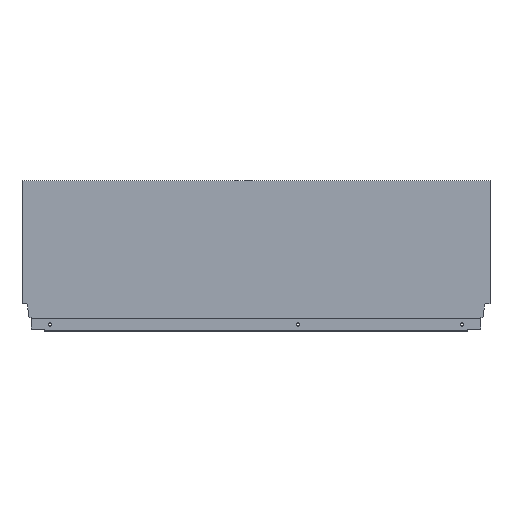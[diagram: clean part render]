
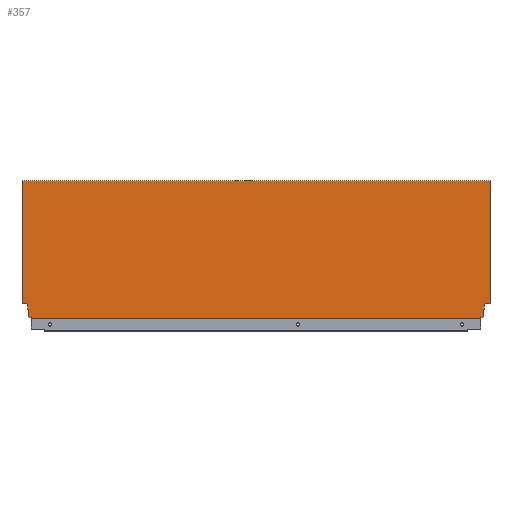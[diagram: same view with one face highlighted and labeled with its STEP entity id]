
A CAD part, top view. The second image highlights one B-rep face of the part: STEP entity #357.
In plain terms, the highlighted planar face has unit normal (0, 0, 1).
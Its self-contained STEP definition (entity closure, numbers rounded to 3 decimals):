
#42 = EDGE_CURVE ( 'NONE', #775, #624, #1206, .T. ) ;
#75 = EDGE_CURVE ( 'NONE', #744, #768, #1145, .T. ) ;
#94 = EDGE_CURVE ( 'NONE', #752, #712, #1150, .T. ) ;
#120 = EDGE_CURVE ( 'NONE', #740, #741, #230, .T. ) ;
#122 = EDGE_CURVE ( 'NONE', #775, #765, #1114, .T. ) ;
#139 = EDGE_CURVE ( 'NONE', #765, #724, #1110, .T. ) ;
#141 = EDGE_CURVE ( 'NONE', #774, #783, #1128, .T. ) ;
#143 = EDGE_CURVE ( 'NONE', #744, #623, #1124, .T. ) ;
#146 = EDGE_CURVE ( 'NONE', #724, #752, #1108, .T. ) ;
#148 = EDGE_CURVE ( 'NONE', #741, #774, #1119, .T. ) ;
#151 = EDGE_CURVE ( 'NONE', #783, #627, #1102, .T. ) ;
#162 = EDGE_CURVE ( 'NONE', #627, #624, #362, .T. ) ;
#177 = AXIS2_PLACEMENT_3D ( 'NONE', #528, #923, #929 ) ;
#192 = EDGE_CURVE ( 'NONE', #712, #768, #371, .T. ) ;
#197 = EDGE_CURVE ( 'NONE', #623, #740, #373, .T. ) ;
#230 = LINE ( 'NONE', #646, #1111 ) ;
#237 = VECTOR ( 'NONE', #809, 1000. ) ;
#357 = ADVANCED_FACE ( 'NONE', ( #424 ), #921, .T. ) ;
#362 = LINE ( 'NONE', #1087, #363 ) ;
#363 = VECTOR ( 'NONE', #1068, 1000. ) ;
#371 = LINE ( 'NONE', #1002, #372 ) ;
#372 = VECTOR ( 'NONE', #600, 1000. ) ;
#373 = LINE ( 'NONE', #1004, #374 ) ;
#374 = VECTOR ( 'NONE', #599, 1000. ) ;
#424 = FACE_OUTER_BOUND ( 'NONE', #1331, .T. ) ;
#496 = CARTESIAN_POINT ( 'NONE',  ( -8.9, 10.765, 7.5 ) ) ;
#512 = CARTESIAN_POINT ( 'NONE',  ( -658.1, 2.64, 7.5 ) ) ;
#528 = CARTESIAN_POINT ( 'NONE',  ( -667., 0., 7.5 ) ) ;
#592 = CARTESIAN_POINT ( 'NONE',  ( -667., 0., 7.5 ) ) ;
#599 = DIRECTION ( 'NONE',  ( 0., -1., 0. ) ) ;
#600 = DIRECTION ( 'NONE',  ( -1., 0., 0. ) ) ;
#603 = DIRECTION ( 'NONE',  ( 1., 0., 0. ) ) ;
#623 = VERTEX_POINT ( 'NONE', #955 ) ;
#624 = VERTEX_POINT ( 'NONE', #886 ) ;
#627 = VERTEX_POINT ( 'NONE', #1022 ) ;
#646 = CARTESIAN_POINT ( 'NONE',  ( 0., 21.2, 7.5 ) ) ;
#712 = VERTEX_POINT ( 'NONE', #1039 ) ;
#724 = VERTEX_POINT ( 'NONE', #512 ) ;
#737 = CARTESIAN_POINT ( 'NONE',  ( -658.1, 2.64, 7.5 ) ) ;
#740 = VERTEX_POINT ( 'NONE', #997 ) ;
#741 = VERTEX_POINT ( 'NONE', #992 ) ;
#744 = VERTEX_POINT ( 'NONE', #901 ) ;
#751 = DIRECTION ( 'NONE',  ( -1., 0., 0. ) ) ;
#752 = VERTEX_POINT ( 'NONE', #905 ) ;
#765 = VERTEX_POINT ( 'NONE', #896 ) ;
#768 = VERTEX_POINT ( 'NONE', #898 ) ;
#774 = VERTEX_POINT ( 'NONE', #885 ) ;
#775 = VERTEX_POINT ( 'NONE', #889 ) ;
#783 = VERTEX_POINT ( 'NONE', #856 ) ;
#809 = DIRECTION ( 'NONE',  ( -0.174, 0.985, 0. ) ) ;
#810 = CARTESIAN_POINT ( 'NONE',  ( -653.996, 1.146, 7.5 ) ) ;
#812 = DIRECTION ( 'NONE',  ( 0., 1., 0. ) ) ;
#816 = CARTESIAN_POINT ( 'NONE',  ( -659.94, 21.2, 7.5 ) ) ;
#843 = CARTESIAN_POINT ( 'NONE',  ( -667., 0., 7.5 ) ) ;
#846 = DIRECTION ( 'NONE',  ( 0., -1., 0. ) ) ;
#856 = CARTESIAN_POINT ( 'NONE',  ( -8.9, 2.64, 7.5 ) ) ;
#885 = CARTESIAN_POINT ( 'NONE',  ( -8.9, 10.765, 7.5 ) ) ;
#886 = CARTESIAN_POINT ( 'NONE',  ( -13.004, 0., 7.5 ) ) ;
#889 = CARTESIAN_POINT ( 'NONE',  ( -653.996, 0., 7.5 ) ) ;
#896 = CARTESIAN_POINT ( 'NONE',  ( -653.996, 1.146, 7.5 ) ) ;
#898 = CARTESIAN_POINT ( 'NONE',  ( -667., 21.2, 7.5 ) ) ;
#901 = CARTESIAN_POINT ( 'NONE',  ( -667., 196.7, 7.5 ) ) ;
#903 = DIRECTION ( 'NONE',  ( -0.94, 0.342, 0. ) ) ;
#905 = CARTESIAN_POINT ( 'NONE',  ( -658.1, 10.765, 7.5 ) ) ;
#921 = PLANE ( 'NONE',  #177 ) ;
#923 = DIRECTION ( 'NONE',  ( 0., 0., 1. ) ) ;
#929 = DIRECTION ( 'NONE',  ( 1., 0., 0. ) ) ;
#955 = CARTESIAN_POINT ( 'NONE',  ( 0., 196.7, 7.5 ) ) ;
#964 = CARTESIAN_POINT ( 'NONE',  ( -667., 196.7, 7.5 ) ) ;
#965 = DIRECTION ( 'NONE',  ( 1., 0., 0. ) ) ;
#968 = CARTESIAN_POINT ( 'NONE',  ( -658.1, 10.765, 7.5 ) ) ;
#969 = DIRECTION ( 'NONE',  ( 0., 1., 0. ) ) ;
#972 = DIRECTION ( 'NONE',  ( -0.174, -0.985, 0. ) ) ;
#990 = DIRECTION ( 'NONE',  ( -0.94, -0.342, 0. ) ) ;
#992 = CARTESIAN_POINT ( 'NONE',  ( -7.06, 21.2, 7.5 ) ) ;
#997 = CARTESIAN_POINT ( 'NONE',  ( 0., 21.2, 7.5 ) ) ;
#1002 = CARTESIAN_POINT ( 'NONE',  ( -672., 21.2, 7.5 ) ) ;
#1004 = CARTESIAN_POINT ( 'NONE',  ( 0., 0., 7.5 ) ) ;
#1022 = CARTESIAN_POINT ( 'NONE',  ( -13.004, 1.146, 7.5 ) ) ;
#1039 = CARTESIAN_POINT ( 'NONE',  ( -659.94, 21.2, 7.5 ) ) ;
#1064 = DIRECTION ( 'NONE',  ( 0., -1., 0. ) ) ;
#1068 = DIRECTION ( 'NONE',  ( 0., -1., 0. ) ) ;
#1069 = CARTESIAN_POINT ( 'NONE',  ( -8.9, 2.64, 7.5 ) ) ;
#1072 = CARTESIAN_POINT ( 'NONE',  ( -7.06, 21.2, 7.5 ) ) ;
#1087 = CARTESIAN_POINT ( 'NONE',  ( -13.004, 1.146, 7.5 ) ) ;
#1101 = VECTOR ( 'NONE', #990, 1000. ) ;
#1102 = LINE ( 'NONE', #1069, #1101 ) ;
#1107 = VECTOR ( 'NONE', #969, 1000. ) ;
#1108 = LINE ( 'NONE', #968, #1107 ) ;
#1110 = LINE ( 'NONE', #737, #1116 ) ;
#1111 = VECTOR ( 'NONE', #751, 1000. ) ;
#1113 = VECTOR ( 'NONE', #812, 1000. ) ;
#1114 = LINE ( 'NONE', #810, #1113 ) ;
#1116 = VECTOR ( 'NONE', #903, 1000. ) ;
#1117 = VECTOR ( 'NONE', #972, 1000. ) ;
#1119 = LINE ( 'NONE', #1072, #1117 ) ;
#1123 = VECTOR ( 'NONE', #965, 1000. ) ;
#1124 = LINE ( 'NONE', #964, #1123 ) ;
#1127 = VECTOR ( 'NONE', #1064, 1000. ) ;
#1128 = LINE ( 'NONE', #496, #1127 ) ;
#1144 = VECTOR ( 'NONE', #846, 1000. ) ;
#1145 = LINE ( 'NONE', #843, #1144 ) ;
#1150 = LINE ( 'NONE', #816, #237 ) ;
#1206 = LINE ( 'NONE', #592, #1209 ) ;
#1209 = VECTOR ( 'NONE', #603, 1000. ) ;
#1331 = EDGE_LOOP ( 'NONE', ( #1461, #1460, #1459, #1458, #1457, #1456, #1455, #1454, #1453, #1452, #1451, #1450, #1449, #1448 ) ) ;
#1448 = ORIENTED_EDGE ( 'NONE', *, *, #143, .F. ) ;
#1449 = ORIENTED_EDGE ( 'NONE', *, *, #197, .F. ) ;
#1450 = ORIENTED_EDGE ( 'NONE', *, *, #120, .F. ) ;
#1451 = ORIENTED_EDGE ( 'NONE', *, *, #148, .F. ) ;
#1452 = ORIENTED_EDGE ( 'NONE', *, *, #141, .F. ) ;
#1453 = ORIENTED_EDGE ( 'NONE', *, *, #151, .F. ) ;
#1454 = ORIENTED_EDGE ( 'NONE', *, *, #162, .F. ) ;
#1455 = ORIENTED_EDGE ( 'NONE', *, *, #42, .T. ) ;
#1456 = ORIENTED_EDGE ( 'NONE', *, *, #122, .F. ) ;
#1457 = ORIENTED_EDGE ( 'NONE', *, *, #139, .F. ) ;
#1458 = ORIENTED_EDGE ( 'NONE', *, *, #146, .F. ) ;
#1459 = ORIENTED_EDGE ( 'NONE', *, *, #94, .F. ) ;
#1460 = ORIENTED_EDGE ( 'NONE', *, *, #192, .F. ) ;
#1461 = ORIENTED_EDGE ( 'NONE', *, *, #75, .T. ) ;
